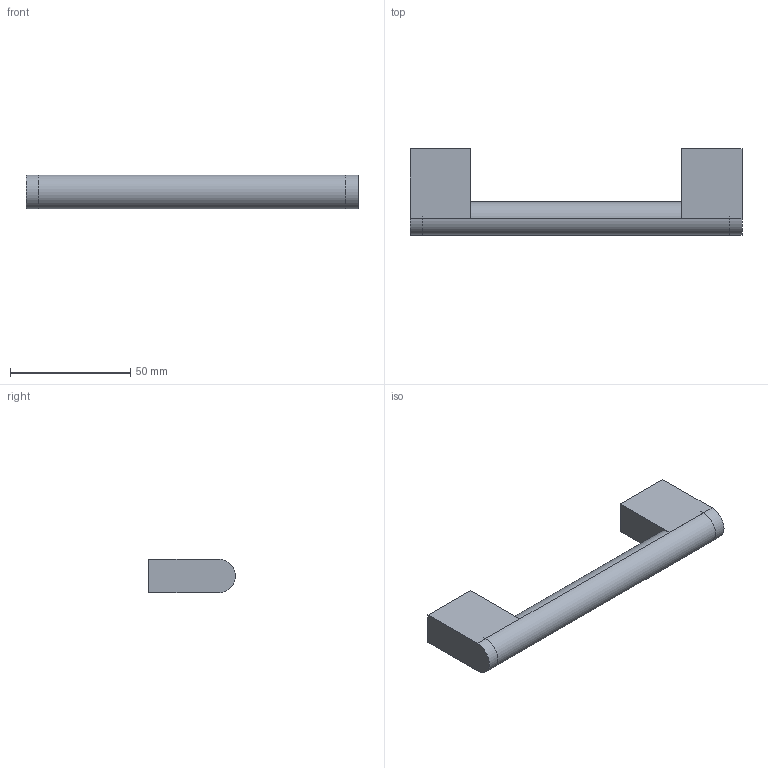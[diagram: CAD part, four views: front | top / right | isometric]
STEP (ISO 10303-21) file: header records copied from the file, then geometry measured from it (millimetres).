
FILE_DESCRIPTION( ( '' ), '1' );
FILE_NAME( 'C:/Documents and Settings/Sachin/Desktop/Sheet 10_1/stp/9118858.stp', '2013-10-22T09:13:23', ( '' ), ( '' ), ' ', ' ', ' ' );
FILE_SCHEMA( ( 'CONFIG_CONTROL_DESIGN' ) );
Length unit declared in the file: millimetre
Products named in the file (1): 1
Bounding box: 138 x 36 x 14 mm (x, y, z)
Volume: 37437.7 mm3; surface area: 12147.2 mm2
Topology: 1 solids, 1 shells, 24 faces, 50 edges, 32 vertices
Faces by surface type: plane 14, cylinder 10
Entity records: 686 total; most frequent: DIRECTION 120, CARTESIAN_POINT 107, ORIENTED_EDGE 100, EDGE_CURVE 50, AXIS2_PLACEMENT_3D 45, VERTEX_POINT 32, LINE 30, VECTOR 30
